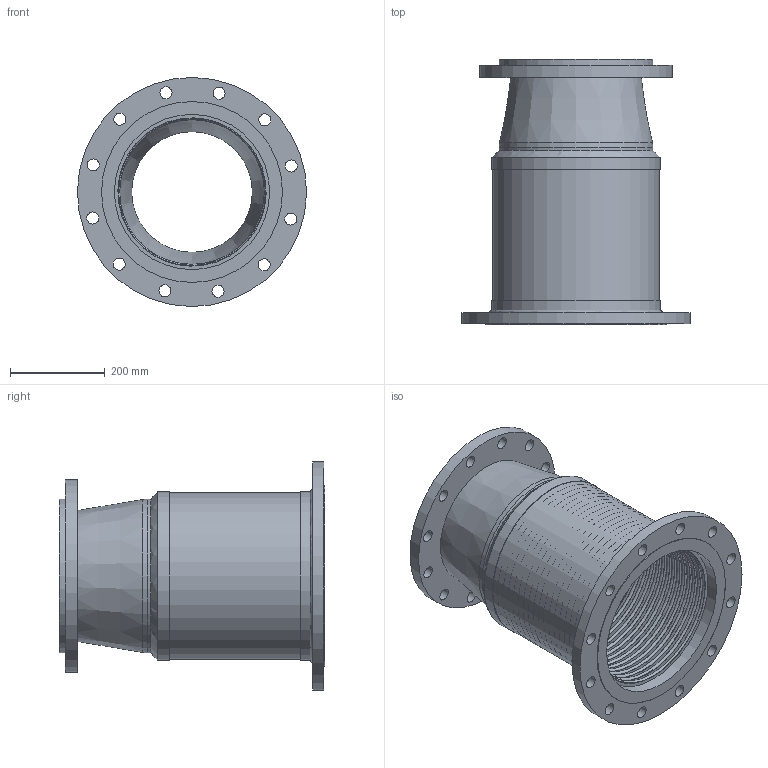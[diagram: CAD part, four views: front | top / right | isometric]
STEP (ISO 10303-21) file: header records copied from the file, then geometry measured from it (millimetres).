
FILE_DESCRIPTION((''),'2;1');
FILE_NAME('C:\2012_Work\Designs\RFFL\RFFL-12x10in.stp','2013-08-20T10:21:01',('KShiels'),(''),'Autodesk Inventor 2012','Autodesk Inventor 2012','');
FILE_SCHEMA(('AUTOMOTIVE_DESIGN { 1 0 10303 214 1 1 1 1 }'));
Length unit declared in the file: inch
Products named in the file (9): RFFL-12x10in; RFFL-12x10in_Welds; A-31008_12in_RFFL-BRAID; A-31008_12in_RFFL-BELLOWS; A-31008_12in_RFFL-BRAID-COLLAR; A-30988_12in-FIXED-FLANGE; A-30989_10in-FLOATING-FLANGE; A-30991_12x10in-REDUCER; A-30990_10in-WASHER
Assembly tree (9 placements, depth 2):
  RFFL-12x10in
    RFFL-12x10in_Welds
    A-31008_12in_RFFL-BRAID
    A-31008_12in_RFFL-BELLOWS
    A-31008_12in_RFFL-BRAID-COLLAR  x2
    A-30988_12in-FIXED-FLANGE
    A-30989_10in-FLOATING-FLANGE
    A-30991_12x10in-REDUCER
    A-30990_10in-WASHER
Bounding box: 482.59 x 559.03 x 482.59 mm (x, y, z)
Volume: 6971659.1 mm3; surface area: 4247637.8 mm2
Topology: 11 solids, 11 shells, 248 faces, 449 edges, 307 vertices
Faces by surface type: plane 106, torus 90, cylinder 44, cone 5, bspline 3
Full cylindrical faces by diameter (mm): 25.4 x24, 254 x1, 272.542 x1, 276.225 x3, 304.8 x1, 323.85 x3, 327.025 x1, 350.52 x1, 351.536 x3, 353.917 x3, 381 x1, 406.4 x1, 482.6 x1
Entity records: 6433 total; most frequent: CARTESIAN_POINT 1666, DIRECTION 1042, ORIENTED_EDGE 554, EDGE_LOOP 533, AXIS2_PLACEMENT_3D 521, FACE_BOUND 289, EDGE_CURVE 277, VERTEX_POINT 274
